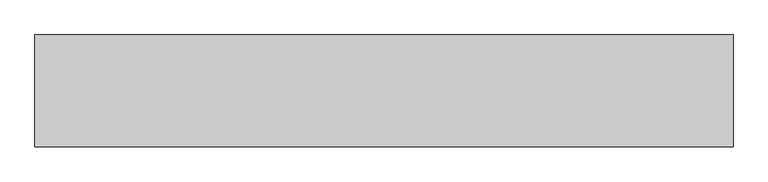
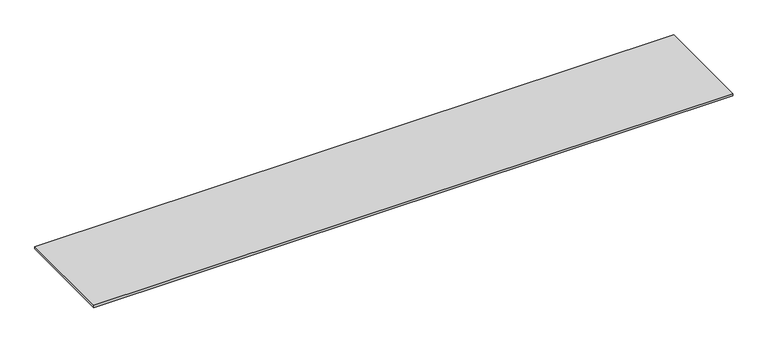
"""IFC4 building model written with IfcOpenShell, lengths in millimetres: furniture geometry, Bancada_balcao : Bancada cantina."""

from ifc_helpers import new_model, si_unit, frame, origin, place, context, project, spatial, polyline, outline, extrude, source, transform, mapped, element, save


def furniture_31818c5e(model_context):
    return source(origin(), model_context, "Body", "SweptSolid", [
        extrude(outline(polyline([(2544.7003264, 0.0), (2544.7003264, -800.0), (-2455.2996736, -800.0), (-2455.2996736, 0.0), (2544.7003264, 0.0)])), frame((0.0, 0.0, 880.0), z_axis=(0.0, 0.0, 1.0), x_axis=(1.0, 0.0, 0.0)), (0.0, 0.0, 1.0), 20.0),
    ])


if __name__ == "__main__":
    model = new_model("IFC4")
    model_context = context("Model", 3, world=origin())
    ifc_project = project(units=[si_unit("LENGTHUNIT", "METRE", prefix="MILLI")], contexts=[model_context])
    site = spatial("IfcSite", under=ifc_project)
    building = spatial("IfcBuilding", under=site)
    placement = place(None, origin())
    furniture_shape = furniture_31818c5e(model_context)
    element("IfcFurniture", 1, ObjectType="Bancada_balcao : Bancada cantina", at=placement, inside=building, context=model_context, shape_type="MappedRepresentation", body=[
        mapped(furniture_shape, transform((0.0, 0.0, 0.0), x_axis=(1.0, 0.0, 0.0), y_axis=(0.0, 1.0, 0.0), z_axis=(0.0, 0.0, 1.0))),
    ])
    save(model, "model.ifc")
